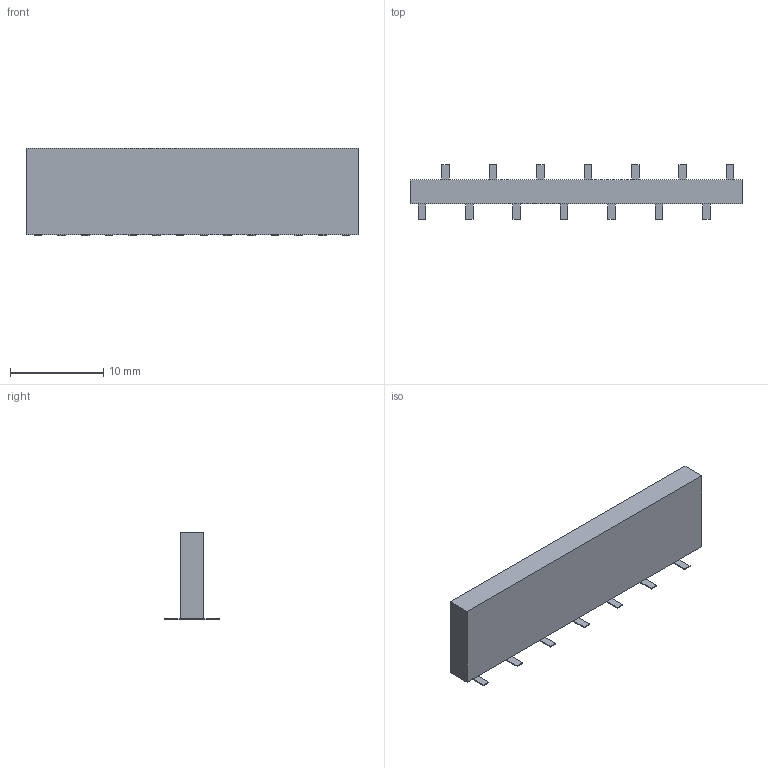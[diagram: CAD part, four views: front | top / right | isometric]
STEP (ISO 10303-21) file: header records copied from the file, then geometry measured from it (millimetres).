
FILE_DESCRIPTION(('FreeCAD Model'),'2;1');
FILE_NAME('/var/www/3D/0T/274300.1.1.stp','2020-04-08T06:22:53',( 'Author'),(''),'Open CASCADE STEP processor 6.9','FreeCAD','Unknown' );
FILE_SCHEMA(('AUTOMOTIVE_DESIGN { 1 0 10303 214 1 1 1 1 }'));
Length unit declared in the file: millimetre
Products named in the file (3): ASSEMBLY; Body; Pins
Assembly tree (2 placements, depth 2):
  ASSEMBLY
    Body
    Pins
Bounding box: 35.56 x 5.8 x 9.4 mm (x, y, z)
Volume: 843.1 mm3; surface area: 962.1 mm2
Topology: 15 solids, 15 shells, 90 faces, 180 edges, 120 vertices
Faces by surface type: plane 90
Entity records: 4781 total; most frequent: CARTESIAN_POINT 753, DIRECTION 726, LINE 540, VECTOR 540, ORIENTED_EDGE 360, PCURVE 360, DEFINITIONAL_REPRESENTATION 360, EDGE_CURVE 180
